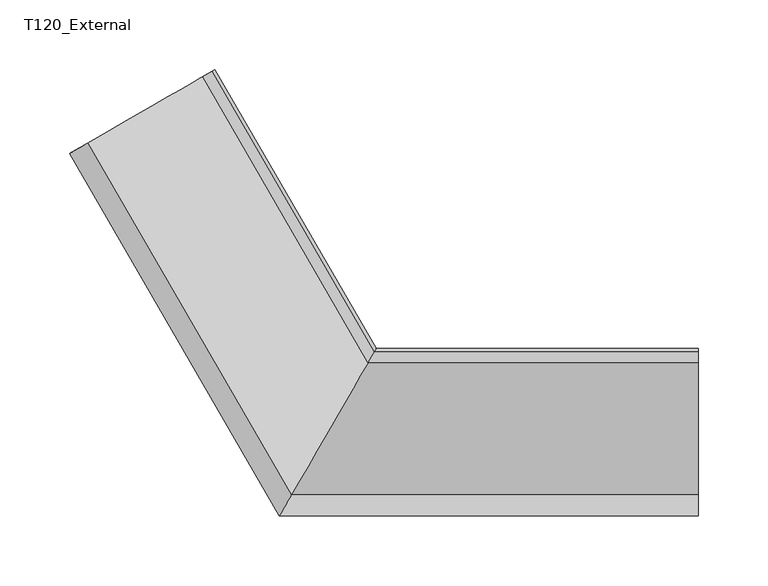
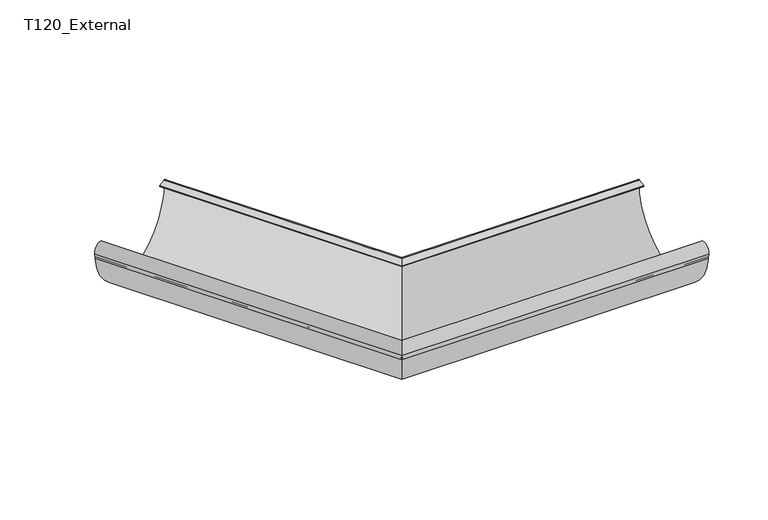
"""IFC4 building model written with IfcOpenShell, lengths in millimetres: proxy geometry, GROVIK_Gutter_Corner_Custom : T120_External."""

from ifc_helpers import new_model, si_unit, frame, origin, place, context, project, spatial, polyline, circle_curve, ellipse_curve, source, transform, mapped, element, save
from ifc_brep_helpers import plane_surface, cylinder_surface, revolved_surface, advanced_brep


def t120_external_9ab457af(model_context):
    return source(origin(), model_context, "Body", "AdvancedBrep", [
        advanced_brep(
        [(0.0, 0.0, -1.8), (-1.2702136, -2.2000746, -0.0242687), (-5.7412843, -9.9441961, -1.4092855), (-5.6498039, -9.7857475, -2.295228), (-1.3264664, -2.2975071, -0.9559749), (-0.5796682, -1.0040147, -2.0579588), (-68.2816278, -118.2672486, -10.26861), (-68.7565022, -119.0897552, -5.3813466), (-67.5212067, -116.9501607, -9.9710741), (-67.7979139, -117.4294315, -8.9478528), (-68.1244791, -117.995059, -5.4006666), (-68.6368883, -118.8825779, -5.5500325), (-68.3186873, -118.3314375, -9.0063664), (-67.8889506, -117.5871118, -10.6080252), (-69.2791796, -119.995059, -5.2006666), (-68.851856, -119.2549128, -10.4251966), (-218.6367679, 140.1801647, -10.4251966), (-219.2777532, 139.8100917, -5.2006666), (-217.1924098, 141.0140653, -10.6080252), (-217.8370148, 140.6419024, -9.0063664), (-218.3143164, 140.3663322, -5.5500325), (-217.5457024, 140.8100917, -5.4006666), (-217.0558546, 141.0929054, -8.9478528), (-216.640794, 141.3325408, -9.9710741), (-218.4937372, 140.2627435, -5.3813466), (-217.7814256, 140.6739968, -10.26861), (-116.2284861, 199.3056138, -2.0579588), (-117.3486834, 198.6588676, -0.9559749), (-123.8336897, 194.9147474, -2.295228), (-123.9709103, 194.8355231, -1.4092855), (-117.2643043, 198.7075838, -0.0242687), (-115.3589838, 199.8076211, -1.8)],
        [
            (0, 1, ellipse_curve(frame((-1.0954451, -1.8973666, -1.9), z_axis=(0.8660254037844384, -0.5000000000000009, 0.0), x_axis=(0.5000000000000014, 0.8660254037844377, 0.0)), 2.193931, 1.9)),
            (1, 2),
            (2, 3),
            (3, 4),
            (4, 5, ellipse_curve(frame((-1.2146571, -2.1038477, -2.0387934), z_axis=(-0.8660254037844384, 0.5000000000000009, 0.0), x_axis=(-0.5000000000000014, -0.8660254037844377, 0.0)), 1.2701706, 1.1)),
            (5, 6, ellipse_curve(frame((-34.6381634, -59.995059, -1.03), z_axis=(-0.8660254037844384, 0.5000000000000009, 0.0), x_axis=(-0.5000000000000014, -0.8660254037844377, 0.0)), 68.1273318, 59.0)),
            (6, 7),
            (7, 8, ellipse_curve(frame((-64.9490526, -112.495059, -5.1006666), z_axis=(-0.8660254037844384, 0.5000000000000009, 0.0), x_axis=(-0.5000000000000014, -0.8660254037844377, 0.0)), 7.6217933, 6.6006666)),
            (8, 9, ellipse_curve(frame((-66.632033, -115.4100665, -8.6258487), z_axis=(-0.8660254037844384, 0.5000000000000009, 0.0), x_axis=(-0.5000000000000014, -0.8660254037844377, 0.0)), 2.3612204, 2.0448768)),
            (9, 10),
            (10, 11),
            (11, 12),
            (12, 13, ellipse_curve(frame((-66.4769581, -115.141469, -8.4977001), z_axis=(0.8660254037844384, -0.5000000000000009, 0.0), x_axis=(0.5000000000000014, 0.8660254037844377, 0.0)), 3.7299938, 3.2302694)),
            (13, 14, ellipse_curve(frame((-64.9490526, -112.495059, -5.1006666), z_axis=(0.8660254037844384, -0.5000000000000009, 0.0), x_axis=(0.5000000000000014, 0.8660254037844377, 0.0)), 8.6610238, 7.5006666)),
            (14, 15),
            (15, 0, ellipse_curve(frame((-34.6381634, -59.995059, -1.03), z_axis=(0.8660254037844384, -0.5000000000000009, 0.0), x_axis=(0.5000000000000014, 0.8660254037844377, 0.0)), 69.2820323, 60.0)),
            (16, 17),
            (17, 18, circle_curve(frame((-212.7825627, 143.5600917, -5.1006666), z_axis=(-0.49999999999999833, 0.8660254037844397, 0.0), x_axis=(-0.8660254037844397, -0.49999999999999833, 0.0)), 7.5006666)),
            (18, 19, circle_curve(frame((-215.0744211, 142.2368866, -8.4977001), z_axis=(-0.49999999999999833, 0.8660254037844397, 0.0), x_axis=(-0.8660254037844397, -0.49999999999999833, 0.0)), 3.2302694)),
            (19, 20),
            (20, 21),
            (21, 22),
            (22, 23, circle_curve(frame((-215.3070333, 142.1025879, -8.6258487), z_axis=(0.49999999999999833, -0.8660254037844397, 0.0), x_axis=(-0.8660254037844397, -0.49999999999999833, 0.0)), 2.0448768)),
            (23, 24, circle_curve(frame((-212.7825627, 143.5600917, -5.1006666), z_axis=(0.49999999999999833, -0.8660254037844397, 0.0), x_axis=(-0.8660254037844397, -0.49999999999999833, 0.0)), 6.6006666)),
            (24, 25),
            (25, 26, circle_curve(frame((-167.316229, 169.8100917, -1.03), z_axis=(0.49999999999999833, -0.8660254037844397, 0.0), x_axis=(-0.8660254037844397, -0.49999999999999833, 0.0)), 59.0)),
            (26, 27, circle_curve(frame((-117.1809694, 198.7556973, -2.0387934), z_axis=(0.49999999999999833, -0.8660254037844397, 0.0), x_axis=(-0.8660254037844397, -0.49999999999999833, 0.0)), 1.1)),
            (27, 28),
            (28, 29),
            (29, 30),
            (30, 31, circle_curve(frame((-117.0021515, 198.8589378, -1.9), z_axis=(-0.49999999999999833, 0.8660254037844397, 0.0), x_axis=(-0.8660254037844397, -0.49999999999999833, 0.0)), 1.9)),
            (31, 16, circle_curve(frame((-167.316229, 169.8100917, -1.03), z_axis=(-0.49999999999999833, 0.8660254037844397, 0.0), x_axis=(-0.8660254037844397, -0.49999999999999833, 0.0)), 60.0)),
            (31, 0),
            (15, 16),
            (30, 1),
            (29, 2),
            (28, 3),
            (27, 4),
            (26, 5),
            (25, 6),
            (24, 7),
            (23, 8),
            (22, 9),
            (21, 10),
            (20, 11),
            (19, 12),
            (18, 13),
            (17, 14),
        ],
        [
            plane_surface(frame((-115.4700538, -200.0, 250.0), z_axis=(0.8660254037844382, -0.5000000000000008, 0.0), x_axis=(0.0, 0.0, -1.0))),
            plane_surface(frame((-115.3589838, 199.8076211, 0.0), z_axis=(-0.49999999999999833, 0.8660254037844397, 0.0), x_axis=(0.0, 0.0, 1.0))),
            cylinder_surface(frame((-167.316229, 169.8100917, -1.03), z_axis=(-0.49999999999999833, 0.8660254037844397, 0.0), x_axis=(-0.8660254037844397, -0.49999999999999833, 0.0)), 60.0),
            cylinder_surface(frame((-117.0021515, 198.8589378, -1.9), z_axis=(-0.49999999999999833, 0.8660254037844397, 0.0), x_axis=(-0.8660254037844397, -0.49999999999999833, 0.0)), 1.9),
            plane_surface(frame((-117.2643043, 198.7075838, -0.0242687), z_axis=(-0.15246723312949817, -0.0880269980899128, 0.984380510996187), x_axis=(0.49999999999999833, -0.8660254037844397, 0.0))),
            plane_surface(frame((-123.9709103, 194.8355231, -1.4092855), z_axis=(-0.8524985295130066, -0.49219025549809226, -0.17605399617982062), x_axis=(0.49999999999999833, -0.8660254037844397, 0.0))),
            plane_surface(frame((-123.8336897, 194.9147474, -2.295228), z_axis=(0.15246723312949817, 0.0880269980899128, -0.984380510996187), x_axis=(0.49999999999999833, -0.8660254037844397, 0.0))),
            revolved_surface(polyline([(-1.849742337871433, -3.2038476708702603, -2.0387934), (-118.13359735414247, 198.20569731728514, -2.0387934)]), (-117.1809694, 198.7556973, -2.0387934), (0.49999999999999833, -0.8660254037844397, 0.0)),
            revolved_surface(polyline([(-68.7018292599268, -118.99505900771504, -1.03), (-218.41172782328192, 140.3100917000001, -1.03)]), (-167.316229, 169.8100917, -1.03), (0.49999999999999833, -0.8660254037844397, 0.0)),
            plane_surface(frame((-217.7814256, 140.6739968, -10.26861), z_axis=(0.8540154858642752, 0.49306607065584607, 0.1659620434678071), x_axis=(0.49999999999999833, -0.8660254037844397, 0.0))),
            revolved_surface(polyline([(-68.75994916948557, -119.09572557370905, -5.1006666), (-218.49890765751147, 140.2597584, -5.1006666)]), (-212.7825627, 143.5600917, -5.1006666), (0.49999999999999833, -0.8660254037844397, 0.0)),
            revolved_surface(polyline([(-67.81264312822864, -117.45494330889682, -8.6258487), (-217.07794855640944, 141.0801495, -8.6258487)]), (-215.3070333, 142.1025879, -8.6258487), (0.49999999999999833, -0.8660254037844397, 0.0)),
            plane_surface(frame((-217.0558546, 141.0929054, -8.9478528), z_axis=(0.8552208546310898, 0.4937619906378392, 0.15746868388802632), x_axis=(0.49999999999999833, -0.8660254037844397, 0.0))),
            plane_surface(frame((-217.5457024, 140.8100917, -5.4006666), z_axis=(-0.1437273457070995, -0.08298102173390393, 0.9861321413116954), x_axis=(0.49999999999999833, -0.8660254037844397, 0.0))),
            plane_surface(frame((-218.3143164, 140.3663322, -5.5500325), z_axis=(-0.8552208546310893, -0.49376199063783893, -0.1574686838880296), x_axis=(0.49999999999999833, -0.8660254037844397, 0.0))),
            cylinder_surface(frame((-215.0744211, 142.2368866, -8.4977001), z_axis=(-0.49999999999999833, 0.8660254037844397, 0.0), x_axis=(-0.8660254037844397, -0.49999999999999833, 0.0)), 3.2302694),
            cylinder_surface(frame((-212.7825627, 143.5600917, -5.1006666), z_axis=(-0.49999999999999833, 0.8660254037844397, 0.0), x_axis=(-0.8660254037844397, -0.49999999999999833, 0.0)), 7.5006666),
            plane_surface(frame((-219.2777532, 139.8100917, -5.2006666), z_axis=(-0.8574636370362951, -0.4950568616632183, -0.14026694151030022), x_axis=(0.49999999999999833, -0.8660254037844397, 0.0))),
        ],
        [
            (0, [[1, 2, 3, 4, 5, 6, 7, 8, 9, 10, 11, 12, 13, 14, 15, 16]]),
            (1, [[17, 18, 19, 20, 21, 22, 23, 24, 25, 26, 27, 28, 29, 30, 31, 32]]),
            (2, [[33, -16, 34, -32]]),
            (3, [[35, -1, -33, -31]]),
            (4, [[36, -2, -35, -30]]),
            (5, [[37, -3, -36, -29]]),
            (6, [[38, -4, -37, -28]]),
            (7, [[39, -5, -38, -27]]),
            (8, [[40, -6, -39, -26]]),
            (9, [[41, -7, -40, -25]]),
            (10, [[42, -8, -41, -24]]),
            (11, [[43, -9, -42, -23]]),
            (12, [[44, -10, -43, -22]]),
            (13, [[45, -11, -44, -21]]),
            (14, [[46, -12, -45, -20]]),
            (15, [[47, -13, -46, -19]]),
            (16, [[48, -14, -47, -18]]),
            (17, [[-34, -15, -48, -17]]),
        ],
    ),
        advanced_brep(
        [(230.7179677, -119.2549128, -10.4251966), (230.7179677, 0.0, -1.8), (230.7179677, -2.2000746, -0.0242687), (230.7179677, -9.9441961, -1.4092855), (230.7179677, -9.7857475, -2.295228), (230.7179677, -2.2975071, -0.9559749), (230.7179677, -1.0040147, -2.0579588), (230.7179677, -118.2672486, -10.26861), (230.7179677, -119.0897552, -5.3813466), (230.7179677, -116.9501607, -9.9710741), (230.7179677, -117.4294315, -8.9478528), (230.7179677, -117.995059, -5.4006666), (230.7179677, -118.8825779, -5.5500325), (230.7179677, -118.3314375, -9.0063664), (230.7179677, -117.5871118, -10.6080252), (230.7179677, -119.995059, -5.2006666), (-68.851856, -119.2549128, -10.4251966), (0.0, 0.0, -1.8), (-1.2702136, -2.2000746, -0.0242687), (-5.7412843, -9.9441961, -1.4092855), (-5.6498039, -9.7857475, -2.295228), (-1.3264664, -2.2975071, -0.9559749), (-0.5796682, -1.0040147, -2.0579588), (-68.2816278, -118.2672486, -10.26861), (-68.7565022, -119.0897552, -5.3813466), (-67.5212067, -116.9501607, -9.9710741), (-67.7979139, -117.4294315, -8.9478528), (-68.1244791, -117.995059, -5.4006666), (-68.6368883, -118.8825779, -5.5500325), (-68.3186873, -118.3314375, -9.0063664), (-67.8889506, -117.5871118, -10.6080252), (-69.2791796, -119.995059, -5.2006666)],
        [
            (0, 1, circle_curve(frame((230.7179677, -59.995059, -1.03), z_axis=(1.0, 0.0, 0.0), x_axis=(0.0, -1.0, 0.0)), 60.0)),
            (1, 2, circle_curve(frame((230.7179677, -1.8973666, -1.9), z_axis=(1.0, 0.0, 0.0), x_axis=(0.0, -1.0, 0.0)), 1.9)),
            (2, 3),
            (3, 4),
            (4, 5),
            (5, 6, circle_curve(frame((230.7179677, -2.1038477, -2.0387934), z_axis=(-1.0, 0.0, 0.0), x_axis=(0.0, -1.0, 0.0)), 1.1)),
            (6, 7, circle_curve(frame((230.7179677, -59.995059, -1.03), z_axis=(-1.0, 0.0, 0.0), x_axis=(0.0, -1.0, 0.0)), 59.0)),
            (7, 8),
            (8, 9, circle_curve(frame((230.7179677, -112.495059, -5.1006666), z_axis=(-1.0, 0.0, 0.0), x_axis=(0.0, -1.0, 0.0)), 6.6006666)),
            (9, 10, circle_curve(frame((230.7179677, -115.4100665, -8.6258487), z_axis=(-1.0, 0.0, 0.0), x_axis=(0.0, -1.0, 0.0)), 2.0448768)),
            (10, 11),
            (11, 12),
            (12, 13),
            (13, 14, circle_curve(frame((230.7179677, -115.141469, -8.4977001), z_axis=(1.0, 0.0, 0.0), x_axis=(0.0, -1.0, 0.0)), 3.2302694)),
            (14, 15, circle_curve(frame((230.7179677, -112.495059, -5.1006666), z_axis=(1.0, 0.0, 0.0), x_axis=(0.0, -1.0, 0.0)), 7.5006666)),
            (15, 0),
            (0, 16),
            (16, 17, ellipse_curve(frame((-34.6381634, -59.995059, -1.03), z_axis=(0.8660254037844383, -0.5000000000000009, 0.0), x_axis=(0.5000000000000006, 0.8660254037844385, 0.0)), 69.2820323, 60.0)),
            (17, 1),
            (17, 18, ellipse_curve(frame((-1.0954451, -1.8973666, -1.9), z_axis=(0.8660254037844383, -0.5000000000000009, 0.0), x_axis=(0.5000000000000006, 0.8660254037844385, 0.0)), 2.193931, 1.9)),
            (18, 2),
            (18, 19),
            (19, 3),
            (19, 20),
            (20, 4),
            (20, 21),
            (21, 5),
            (21, 22, ellipse_curve(frame((-1.2146571, -2.1038477, -2.0387934), z_axis=(-0.8660254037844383, 0.5000000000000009, 0.0), x_axis=(-0.5000000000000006, -0.8660254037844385, 0.0)), 1.2701706, 1.1)),
            (22, 6),
            (22, 23, ellipse_curve(frame((-34.6381634, -59.995059, -1.03), z_axis=(-0.8660254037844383, 0.5000000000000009, 0.0), x_axis=(-0.5000000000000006, -0.8660254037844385, 0.0)), 68.1273318, 59.0)),
            (23, 7),
            (23, 24),
            (24, 8),
            (24, 25, ellipse_curve(frame((-64.9490526, -112.495059, -5.1006666), z_axis=(-0.8660254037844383, 0.5000000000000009, 0.0), x_axis=(-0.5000000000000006, -0.8660254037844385, 0.0)), 7.6217933, 6.6006666)),
            (25, 9),
            (25, 26, ellipse_curve(frame((-66.632033, -115.4100665, -8.6258487), z_axis=(-0.8660254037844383, 0.5000000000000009, 0.0), x_axis=(-0.5000000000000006, -0.8660254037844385, 0.0)), 2.3612204, 2.0448768)),
            (26, 10),
            (26, 27),
            (27, 11),
            (27, 28),
            (28, 12),
            (28, 29),
            (29, 13),
            (29, 30, ellipse_curve(frame((-66.4769581, -115.141469, -8.4977001), z_axis=(0.8660254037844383, -0.5000000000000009, 0.0), x_axis=(0.5000000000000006, 0.8660254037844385, 0.0)), 3.7299938, 3.2302694)),
            (30, 14),
            (30, 31, ellipse_curve(frame((-64.9490526, -112.495059, -5.1006666), z_axis=(0.8660254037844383, -0.5000000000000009, 0.0), x_axis=(0.5000000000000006, 0.8660254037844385, 0.0)), 8.6610238, 7.5006666)),
            (31, 15),
            (31, 16),
        ],
        [
            plane_surface(frame((230.7179677, 0.0, 0.0), z_axis=(1.0, 0.0, 0.0), x_axis=(0.0, 0.0, 1.0))),
            cylinder_surface(frame((230.7179677, -59.995059, -1.03), z_axis=(1.0, 0.0, 0.0), x_axis=(0.0, -1.0, 0.0)), 60.0),
            cylinder_surface(frame((230.7179677, -1.8973666, -1.9), z_axis=(1.0, 0.0, 0.0), x_axis=(0.0, -1.0, 0.0)), 1.9),
            plane_surface(frame((230.7179677, -2.2000746, -0.0242687), z_axis=(0.0, -0.17605399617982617, 0.9843805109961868), x_axis=(-1.0, 0.0, 0.0))),
            plane_surface(frame((230.7179677, -9.9441961, -1.4092855), z_axis=(0.0, -0.9843805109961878, -0.1760539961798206), x_axis=(-1.0, 0.0, 0.0))),
            plane_surface(frame((230.7179677, -9.7857475, -2.295228), z_axis=(0.0, 0.17605399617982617, -0.9843805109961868), x_axis=(-1.0, 0.0, 0.0))),
            revolved_surface(polyline([(-1.849742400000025, -3.2038477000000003, -2.0387934), (230.7179677, -3.2038477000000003, -2.0387934)]), (230.7179677, -2.1038477, -2.0387934), (-1.0, 0.0, 0.0)),
            revolved_surface(polyline([(-68.70182930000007, -118.995059, -1.03), (230.7179677, -118.995059, -1.03)]), (230.7179677, -59.995059, -1.03), (-1.0, 0.0, 0.0)),
            plane_surface(frame((230.7179677, -118.2672486, -10.26861), z_axis=(0.0, 0.9861321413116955, 0.16596204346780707), x_axis=(-1.0, 0.0, 0.0))),
            revolved_surface(polyline([(-68.75994925, -119.0957256, -5.1006666), (230.7179677, -119.0957256, -5.1006666)]), (230.7179677, -112.495059, -5.1006666), (-1.0, 0.0, 0.0)),
            revolved_surface(polyline([(-67.8126432, -117.4549433, -8.6258487), (230.7179677, -117.4549433, -8.6258487)]), (230.7179677, -115.4100665, -8.6258487), (-1.0, 0.0, 0.0)),
            plane_surface(frame((230.7179677, -117.4294315, -8.9478528), z_axis=(0.0, 0.9875239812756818, 0.1574686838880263), x_axis=(-1.0, 0.0, 0.0))),
            plane_surface(frame((230.7179677, -117.995059, -5.4006666), z_axis=(0.0, -0.1659620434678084, 0.9861321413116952), x_axis=(-1.0, 0.0, 0.0))),
            plane_surface(frame((230.7179677, -118.8825779, -5.5500325), z_axis=(0.0, -0.9875239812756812, -0.15746868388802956), x_axis=(-1.0, 0.0, 0.0))),
            cylinder_surface(frame((230.7179677, -115.141469, -8.4977001), z_axis=(1.0, 0.0, 0.0), x_axis=(0.0, -1.0, 0.0)), 3.2302694),
            cylinder_surface(frame((230.7179677, -112.495059, -5.1006666), z_axis=(1.0, 0.0, 0.0), x_axis=(0.0, -1.0, 0.0)), 7.5006666),
            plane_surface(frame((230.7179677, -119.995059, -5.2006666), z_axis=(0.0, -0.9901137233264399, -0.14026694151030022), x_axis=(-1.0, 0.0, 0.0))),
            plane_surface(frame((-115.4700538, -200.0, 250.0), z_axis=(-0.8660254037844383, 0.5000000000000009, 0.0), x_axis=(0.0, 0.0, -1.0))),
        ],
        [
            (0, [[1, 2, 3, 4, 5, 6, 7, 8, 9, 10, 11, 12, 13, 14, 15, 16]]),
            (1, [[-1, 17, 18, 19]]),
            (2, [[-2, -19, 20, 21]]),
            (3, [[-3, -21, 22, 23]]),
            (4, [[-4, -23, 24, 25]]),
            (5, [[-5, -25, 26, 27]]),
            (6, [[-6, -27, 28, 29]]),
            (7, [[-7, -29, 30, 31]]),
            (8, [[-8, -31, 32, 33]]),
            (9, [[-9, -33, 34, 35]]),
            (10, [[-10, -35, 36, 37]]),
            (11, [[-11, -37, 38, 39]]),
            (12, [[-12, -39, 40, 41]]),
            (13, [[-13, -41, 42, 43]]),
            (14, [[-14, -43, 44, 45]]),
            (15, [[-15, -45, 46, 47]]),
            (16, [[-16, -47, 48, -17]]),
            (17, [[-18, -48, -46, -44, -42, -40, -38, -36, -34, -32, -30, -28, -26, -24, -22, -20]]),
        ],
    ),
    ])


if __name__ == "__main__":
    model = new_model("IFC4")
    model_context = context("Model", 3, world=origin())
    ifc_project = project(units=[si_unit("LENGTHUNIT", "METRE", prefix="MILLI")], contexts=[model_context])
    site = spatial("IfcSite", under=ifc_project)
    building = spatial("IfcBuilding", under=site)
    placement = place(None, origin())
    t120_external_shape = t120_external_9ab457af(model_context)
    element("IfcBuildingElementProxy", 1, Name="GROVIK_Gutter_Corner_Custom : T120_External", ObjectType="GROVIK_Gutter_Corner_Custom : T120_External", at=placement, inside=building, context=model_context, shape_type="MappedRepresentation", body=[
        mapped(t120_external_shape, transform((0.0, 0.0, 0.0), x_axis=(1.0, 0.0, 0.0), y_axis=(0.0, 1.0, 0.0), z_axis=(0.0, 0.0, 1.0))),
    ])
    save(model, "model.ifc")
